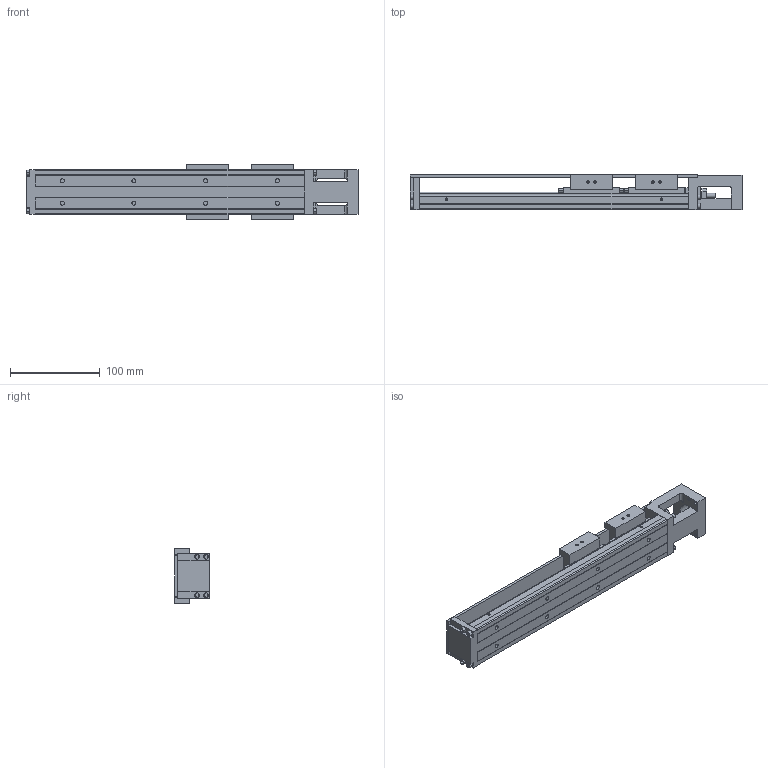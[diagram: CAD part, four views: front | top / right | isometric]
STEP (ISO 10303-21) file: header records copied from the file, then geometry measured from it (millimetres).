
FILE_DESCRIPTION( ( '' ), '1' );
FILE_NAME( '//partserver001.servicenet/client_exchange/iodir/jobs/output/wkb20072909_no4/STEP/kk5002p_300a2_f0c_2_03.stp', '2009-11-11T09:37:30', ( '' ), ( '' ), ' ', ' ', ' ' );
FILE_SCHEMA( ( 'CONFIG_CONTROL_DESIGN' ) );
Length unit declared in the file: millimetre
Products named in the file (7): 1; 2; 3; 4; 5; 6; 7
Bounding box: 370.5 x 40 x 62 mm (x, y, z)
Volume: 401656 mm3; surface area: 150333.1 mm2
Topology: 7 solids, 7 shells, 706 faces, 1764 edges, 1076 vertices
Faces by surface type: plane 308, cylinder 222, cone 176
Entity records: 20894 total; most frequent: DIRECTION 3656, CARTESIAN_POINT 3643, ORIENTED_EDGE 3368, EDGE_CURVE 1684, AXIS2_PLACEMENT_3D 1269, LINE 1118, VECTOR 1118, VERTEX_POINT 1076
